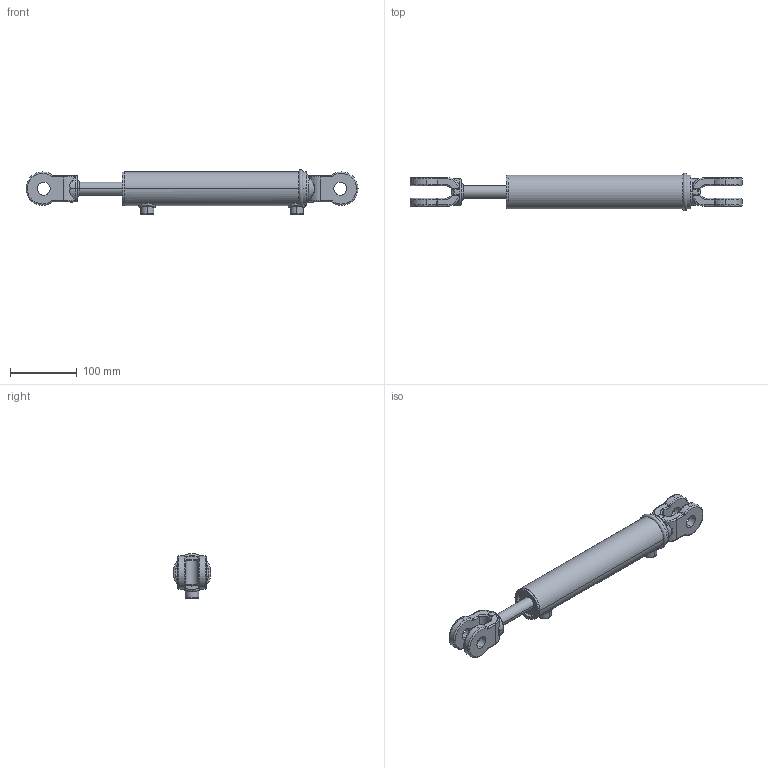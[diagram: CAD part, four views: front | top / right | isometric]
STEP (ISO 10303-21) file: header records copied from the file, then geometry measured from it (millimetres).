
FILE_DESCRIPTION (( 'STEP AP203' ), '1' );
FILE_NAME ('CL-CL150075x203 (8).STEP', '2014-11-20T20:37:51', ( '' ), ( '' ), 'SwSTEP 2.0', 'SolidWorks 2014', '' );
FILE_SCHEMA (( 'CONFIG_CONTROL_DESIGN' ));
Length unit declared in the file: millimetre
Products named in the file (3): 8 SPARE; CL-CL150075x203 (8); CL-CL150075x203 (8) BODY
Assembly tree (2 placements, depth 2):
  CL-CL150075x203 (8)
    CL-CL150075x203 (8) BODY
    8 SPARE
Bounding box: 497.41 x 56.8 x 66.8 mm (x, y, z)
Volume: 748795.7 mm3; surface area: 110248.9 mm2
Topology: 2 solids, 2 shells, 261 faces, 641 edges, 379 vertices
Faces by surface type: bspline 116, cylinder 88, plane 32, torus 17, cone 8
Entity records: 23685 total; most frequent: CARTESIAN_POINT 18075, ORIENTED_EDGE 1250, DIRECTION 902, EDGE_CURVE 625, VERTEX_POINT 379, AXIS2_PLACEMENT_3D 376, EDGE_LOOP 280, FACE_OUTER_BOUND 261
